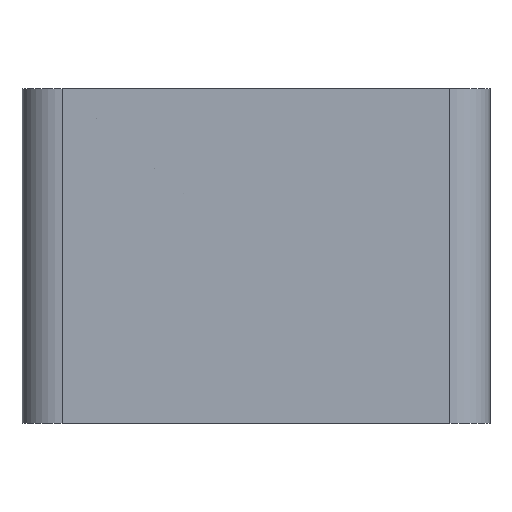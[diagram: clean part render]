
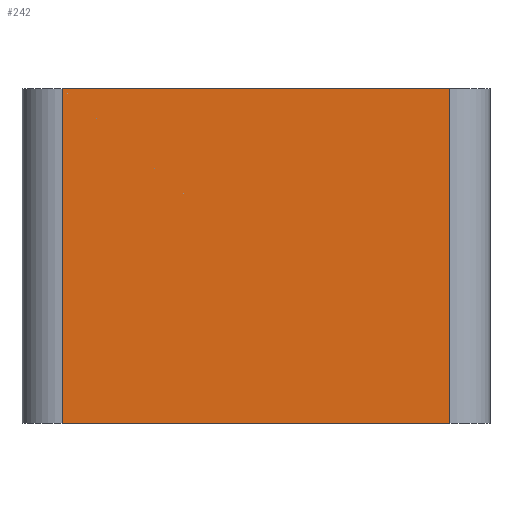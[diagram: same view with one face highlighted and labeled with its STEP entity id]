
A CAD part, front view. The second image highlights one B-rep face of the part: STEP entity #242.
In plain terms, the highlighted planar face has unit normal (0, -1, 0).
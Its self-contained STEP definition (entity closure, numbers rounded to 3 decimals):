
#96=FACE_OUTER_BOUND('',#980,.T.);
#242=ADVANCED_FACE('',(#96),#408,.T.);
#408=PLANE('',#2926);
#524=LINE('',#4221,#679);
#529=LINE('',#4311,#684);
#530=LINE('',#4314,#685);
#531=LINE('',#4315,#686);
#679=VECTOR('',#3133,1.);
#684=VECTOR('',#3144,1.);
#685=VECTOR('',#3145,1.);
#686=VECTOR('',#3146,1.);
#980=EDGE_LOOP('',(#1279,#1280,#1281,#1282));
#1279=ORIENTED_EDGE('',*,*,#2383,.T.);
#1280=ORIENTED_EDGE('',*,*,#2384,.T.);
#1281=ORIENTED_EDGE('',*,*,#2364,.T.);
#1282=ORIENTED_EDGE('',*,*,#2385,.T.);
#2086=VERTEX_POINT('',#4220);
#2087=VERTEX_POINT('',#4222);
#2105=VERTEX_POINT('',#4312);
#2106=VERTEX_POINT('',#4313);
#2364=EDGE_CURVE('',#2087,#2086,#524,.T.);
#2383=EDGE_CURVE('',#2105,#2106,#529,.T.);
#2384=EDGE_CURVE('',#2106,#2087,#530,.T.);
#2385=EDGE_CURVE('',#2086,#2105,#531,.T.);
#2926=AXIS2_PLACEMENT_3D('',#4316,#3147,#3148);
#3133=DIRECTION('',(-1.,0.,0.));
#3144=DIRECTION('',(1.,0.,0.));
#3145=DIRECTION('',(0.,0.,1.));
#3146=DIRECTION('',(0.,0.,-1.));
#3147=DIRECTION('',(0.,-1.,0.));
#3148=DIRECTION('',(0.,0.,-1.));
#4220=CARTESIAN_POINT('',(3.,0.,25.));
#4221=CARTESIAN_POINT('',(17.5,0.,25.));
#4222=CARTESIAN_POINT('',(32.,0.,25.));
#4311=CARTESIAN_POINT('',(17.5,0.,0.));
#4312=CARTESIAN_POINT('',(3.,0.,0.));
#4313=CARTESIAN_POINT('',(32.,0.,0.));
#4314=CARTESIAN_POINT('',(32.,0.,0.));
#4315=CARTESIAN_POINT('',(3.,0.,0.));
#4316=CARTESIAN_POINT('',(17.5,0.,0.));
